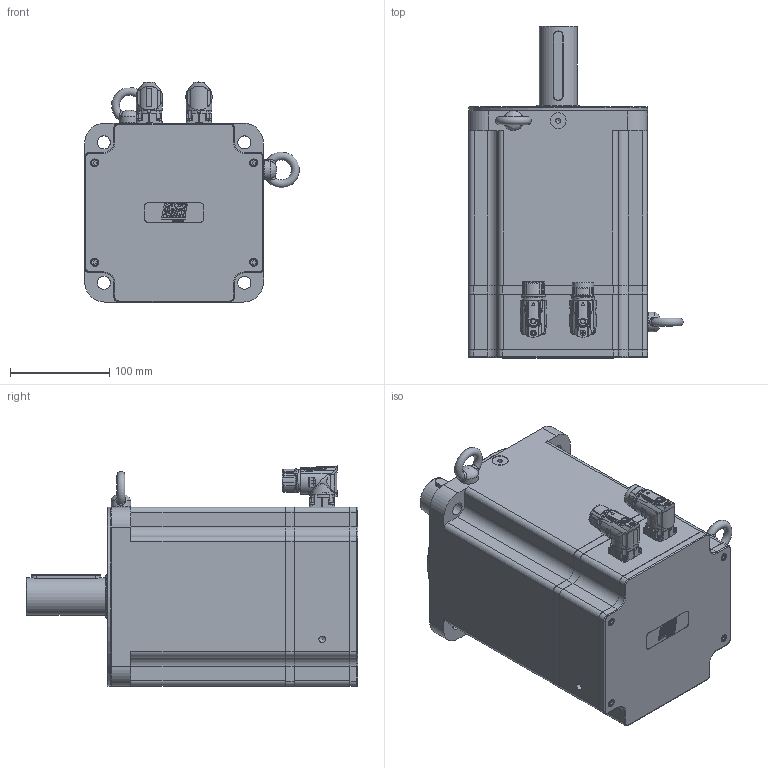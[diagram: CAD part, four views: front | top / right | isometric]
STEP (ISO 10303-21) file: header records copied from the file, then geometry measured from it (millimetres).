
FILE_DESCRIPTION(/* description */ ('Unknown'),/* implementation_level */ '2;1');
FILE_NAME(/* name */ 'TC4-180.7D.X X.X.3.XX.0.X.G2.00.00 Q0B808',/* time_stamp */ '2026-03-10T14:16:47+01:00',/* author */ ('Unknown'),/* organization */ ('Unknown'),/* preprocessor_version */ 'ST-DEVELOPER v19.4',/* originating_system */ 'Solid Edge',/* authorisation */ 'Unknown');
FILE_SCHEMA (('AUTOMOTIVE_DESIGN {1 0 10303 214 3 1 1}'));
Products named in the file (15): Q0B808 7D VUOTO; Calotta TC4-180 V8; 003251040631; 005911000479; 003155002230; 005113001040; 005911000185; 005119001064; Coperchio campana TC4-180; 003003199943; 007117000454; 005911000180; 005321000010; Corpo TC4-180 7D; 007117000456
Assembly tree (32 placements, depth 2):
  Q0B808 7D VUOTO
    Calotta TC4-180 V8
    003251040631
    005911000479  x8
    003155002230
    005113001040
    005911000185  x8
    005119001064
    Coperchio campana TC4-180
    003003199943
    007117000454
    005911000180  x4
    005321000010  x2
    Corpo TC4-180 7D
    007117000456
Bounding box: 215.97 x 334 x 221.5 mm (x, y, z)
Volume: 3282768.1 mm3; surface area: 691059.4 mm2
Topology: 34 solids, 34 shells, 2241 faces, 5626 edges, 3609 vertices
Faces by surface type: plane 941, cylinder 521, cone 303, bspline 270, torus 147, sphere 59
Full cylindrical faces by diameter (mm): 0.5 x1, 1 x21, 1.2 x17, 1.4 x4, 2 x4, 2.013 x16, 2.5 x8, 2.8 x4, 3 x12, 3.242 x8, 4 x5, 4.134 x24, 4.2 x8, 4.5 x10, 4.7 x8, 4.917 x2, 5 x8, 5.5 x10, 5.8 x1, 5.9 x2, 6.647 x14, 6.8 x1, 7 x6, 8 x6, 9 x4, 10 x5, 10.106 x2, 15.2 x1, 16 x1, 17.4 x3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
Entity records: 77228 total; most frequent: CARTESIAN_POINT 20196, ORIENTED_EDGE 8906, DIRECTION 8574, EDGE_CURVE 4453, AXIS2_PLACEMENT_3D 3338, VERTEX_POINT 3102, FACE_BOUND 2647, EDGE_LOOP 2616
